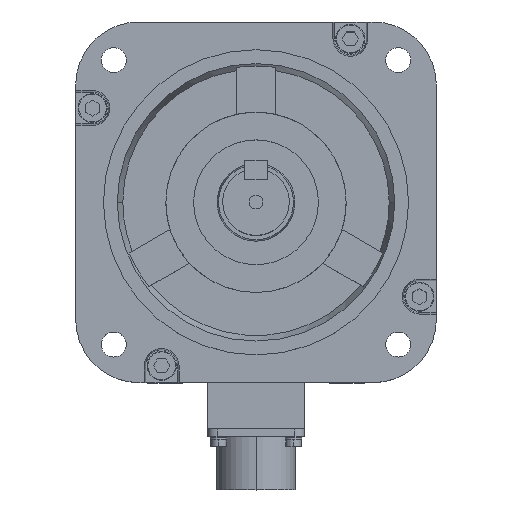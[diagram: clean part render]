
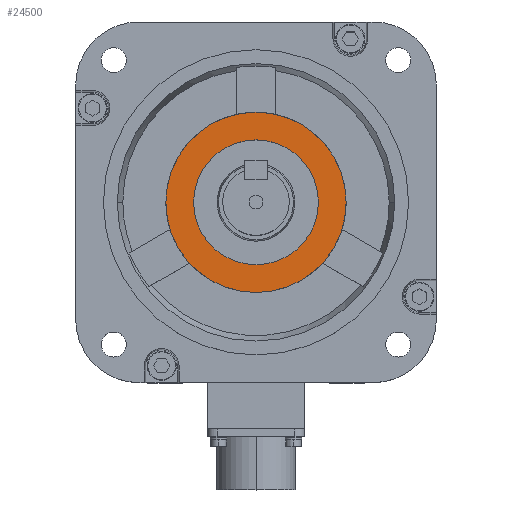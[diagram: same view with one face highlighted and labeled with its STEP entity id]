
A CAD part, top view. The second image highlights one B-rep face of the part: STEP entity #24500.
In plain terms, the highlighted planar face has unit normal (0, 0, 1).
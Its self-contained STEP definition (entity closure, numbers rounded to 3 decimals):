
#1446 = VERTEX_POINT ( 'NONE', #18807 ) ;
#2449 = VERTEX_POINT ( 'NONE', #20707 ) ;
#2604 = EDGE_CURVE ( 'NONE', #2449, #2639, #20915, .T. ) ;
#2639 = VERTEX_POINT ( 'NONE', #20972 ) ;
#7248 = CARTESIAN_POINT ( 'NONE',  ( 22.5, 0., 6. ) ) ;
#7679 = DIRECTION ( 'NONE',  ( 1., 0., 0. ) ) ;
#7680 = DIRECTION ( 'NONE',  ( 0., 0., 1. ) ) ;
#7681 = CARTESIAN_POINT ( 'NONE',  ( 0., 0., 6. ) ) ;
#7682 = AXIS2_PLACEMENT_3D ( 'NONE', #7681, #7680, #7679 ) ;
#7683 = CIRCLE ( 'NONE', #7682, 22.5 ) ;
#10554 = DIRECTION ( 'NONE',  ( 1., 0., 0. ) ) ;
#10555 = DIRECTION ( 'NONE',  ( 0., 0., 1. ) ) ;
#10556 = CARTESIAN_POINT ( 'NONE',  ( 0., 0., 6. ) ) ;
#10557 = AXIS2_PLACEMENT_3D ( 'NONE', #10556, #10555, #10554 ) ;
#10558 = CIRCLE ( 'NONE', #10557, 32.5 ) ;
#11186 = DIRECTION ( 'NONE',  ( 1., 0., 0. ) ) ;
#11187 = DIRECTION ( 'NONE',  ( 0., 0., 1. ) ) ;
#11188 = CARTESIAN_POINT ( 'NONE',  ( 0., 0., 6. ) ) ;
#11189 = AXIS2_PLACEMENT_3D ( 'NONE', #11188, #11187, #11186 ) ;
#11190 = PLANE ( 'NONE',  #11189 ) ;
#11191 = FACE_OUTER_BOUND ( 'NONE', #23972, .T. ) ;
#11192 = FACE_BOUND ( 'NONE', #24494, .T. ) ;
#11437 = DIRECTION ( 'NONE',  ( 1., 0., 0. ) ) ;
#11438 = DIRECTION ( 'NONE',  ( 0., 0., 1. ) ) ;
#11439 = AXIS2_PLACEMENT_3D ( 'NONE', #11446, #11438, #11437 ) ;
#11440 = CIRCLE ( 'NONE', #11439, 22.5 ) ;
#11446 = CARTESIAN_POINT ( 'NONE',  ( 0., 0., 6. ) ) ;
#18807 = CARTESIAN_POINT ( 'NONE',  ( -22.5, 0., 6. ) ) ;
#20049 = VERTEX_POINT ( 'NONE', #7248 ) ;
#20707 = CARTESIAN_POINT ( 'NONE',  ( 32.5, 0., 6. ) ) ;
#20911 = DIRECTION ( 'NONE',  ( 1., 0., 0. ) ) ;
#20912 = DIRECTION ( 'NONE',  ( 0., 0., 1. ) ) ;
#20913 = CARTESIAN_POINT ( 'NONE',  ( 0., 0., 6. ) ) ;
#20914 = AXIS2_PLACEMENT_3D ( 'NONE', #20913, #20912, #20911 ) ;
#20915 = CIRCLE ( 'NONE', #20914, 32.5 ) ;
#20972 = CARTESIAN_POINT ( 'NONE',  ( -32.5, 0., 6. ) ) ;
#22505 = EDGE_CURVE ( 'NONE', #1446, #20049, #7683, .T. ) ;
#23972 = EDGE_LOOP ( 'NONE', ( #24154, #24135 ) ) ;
#24002 = ORIENTED_EDGE ( 'NONE', *, *, #22505, .F. ) ;
#24135 = ORIENTED_EDGE ( 'NONE', *, *, #24150, .T. ) ;
#24150 = EDGE_CURVE ( 'NONE', #2639, #2449, #10558, .T. ) ;
#24154 = ORIENTED_EDGE ( 'NONE', *, *, #2604, .T. ) ;
#24173 = ORIENTED_EDGE ( 'NONE', *, *, #24615, .F. ) ;
#24494 = EDGE_LOOP ( 'NONE', ( #24173, #24002 ) ) ;
#24500 = ADVANCED_FACE ( 'NONE', ( #11192, #11191 ), #11190, .T. ) ;
#24615 = EDGE_CURVE ( 'NONE', #20049, #1446, #11440, .T. ) ;
